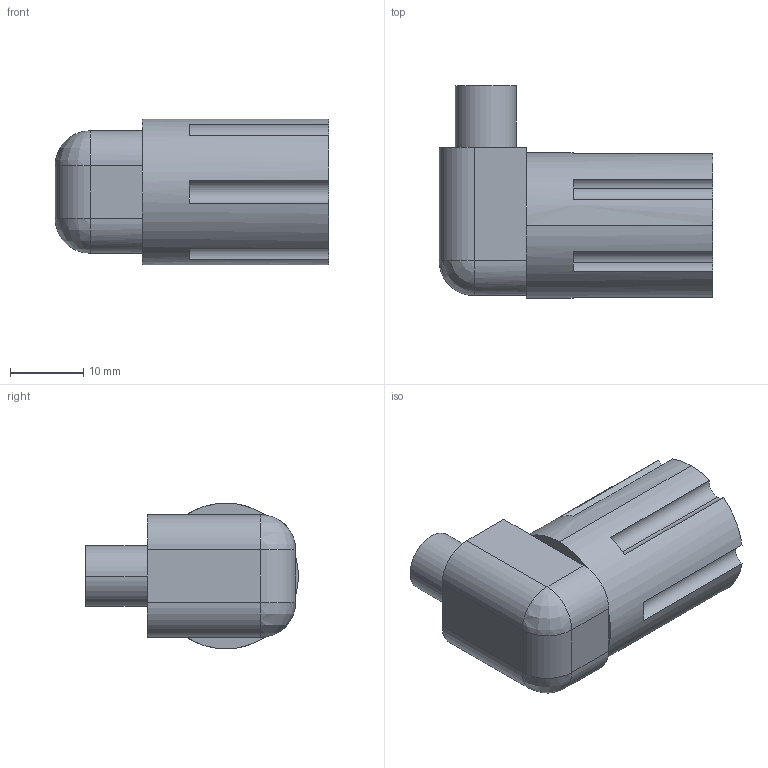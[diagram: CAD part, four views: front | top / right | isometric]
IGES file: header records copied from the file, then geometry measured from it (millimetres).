
Start section: SolidWorks IGES file using analytic representation for surfaces
Global section: file name: S:\Product Visuals\Solid Models for publication\30\leak-and-stroke-detection\stroke-detection\pressure-switch\fitting-elbow-nut-assembly.IGS; native system: SolidWorks 2012; preprocessor: SolidWorks 2012; author: rachel.dressel; date: 121026.143056; units: inch
Bounding box: 37.29 x 28.96 x 19.81 mm (x, y, z)
Volume: 10940.2 mm3; surface area: 3802.5 mm2
Topology: 1 solids, 1 shells, 45 faces, 110 edges, 68 vertices
Faces by surface type: revolution 25, plane 20
